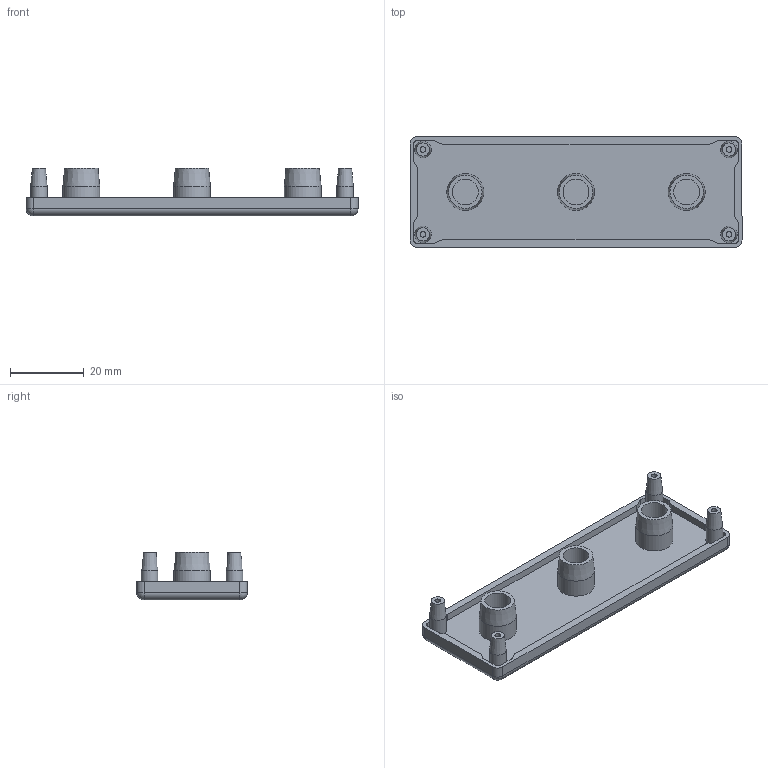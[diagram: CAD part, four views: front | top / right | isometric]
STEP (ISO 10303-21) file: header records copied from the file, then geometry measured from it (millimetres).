
FILE_DESCRIPTION(/* description */ ('Tappo 30x90'),/* implementation_level */ '2;1');
FILE_NAME(/* name */ 'C:\Users\Stefan.Nesic\Desktop\01010STEP\CC30-90.stp',/* time_stamp */ '2022-06-17T14:01:29+02:00',/* author */ ('USER'),/* organization */ ('Microsoft'),/* preprocessor_version */ 'ST-DEVELOPER v18.1',/* originating_system */ 'Autodesk Inventor 2021',/* authorisation */ '');
FILE_SCHEMA (('AUTOMOTIVE_DESIGN { 1 0 10303 214 3 1 1 }'));
Length unit declared in the file: millimetre
Products named in the file (1): CC30-90
Bounding box: 90 x 30 x 13 mm (x, y, z)
Volume: 10310 mm3; surface area: 9074.6 mm2
Topology: 1 solids, 1 shells, 86 faces, 192 edges, 119 vertices
Faces by surface type: cylinder 42, plane 33, cone 7, sphere 4
Full cylindrical faces by diameter (mm): 1.5 x4, 4.5 x4, 7 x3, 10 x3
Entity records: 2412 total; most frequent: DIRECTION 453, CARTESIAN_POINT 394, ORIENTED_EDGE 376, EDGE_CURVE 188, AXIS2_PLACEMENT_3D 178, VERTEX_POINT 119, EDGE_LOOP 101, LINE 97
